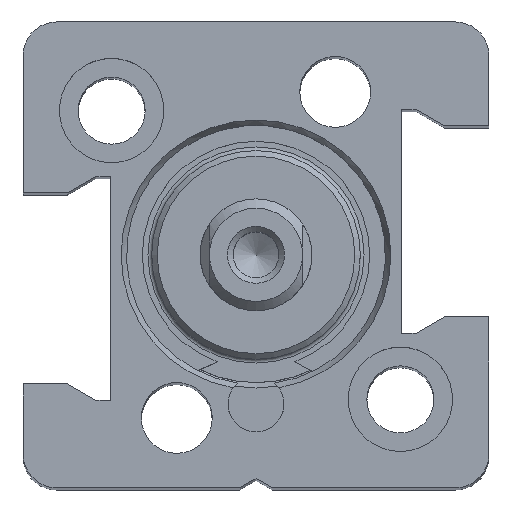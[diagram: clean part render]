
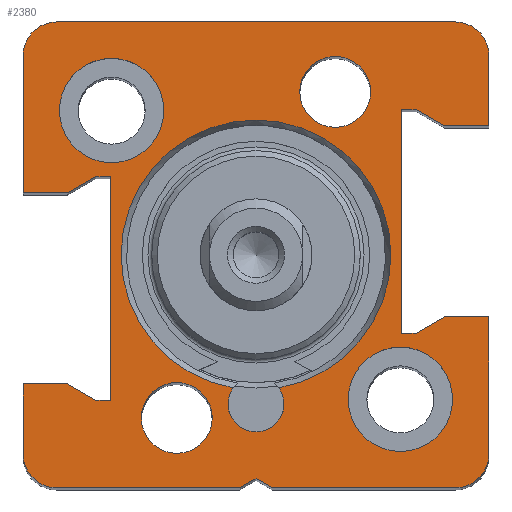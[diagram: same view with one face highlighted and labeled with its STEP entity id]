
A CAD part, top view. The second image highlights one B-rep face of the part: STEP entity #2380.
In plain terms, the highlighted planar face has unit normal (0, 0, 1).
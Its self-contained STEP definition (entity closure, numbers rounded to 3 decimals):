
#100=LINE('',#3318,#193);
#102=LINE('',#3322,#195);
#104=LINE('',#3326,#197);
#106=LINE('',#3330,#199);
#108=LINE('',#3334,#201);
#110=LINE('',#3338,#203);
#112=LINE('',#3342,#205);
#114=LINE('',#3346,#207);
#116=LINE('',#3350,#209);
#119=LINE('',#3358,#212);
#122=LINE('',#3364,#215);
#124=LINE('',#3368,#217);
#127=LINE('',#3376,#220);
#129=LINE('',#3380,#222);
#131=LINE('',#3384,#224);
#133=LINE('',#3388,#226);
#135=LINE('',#3392,#228);
#137=LINE('',#3396,#230);
#139=LINE('',#3400,#232);
#141=LINE('',#3404,#234);
#143=LINE('',#3408,#236);
#150=LINE('',#3496,#243);
#151=LINE('',#3497,#244);
#193=VECTOR('',#2782,1000.);
#195=VECTOR('',#2786,1000.);
#197=VECTOR('',#2790,1000.);
#199=VECTOR('',#2794,1000.);
#201=VECTOR('',#2798,1000.);
#203=VECTOR('',#2802,1000.);
#205=VECTOR('',#2806,1000.);
#207=VECTOR('',#2810,1000.);
#209=VECTOR('',#2814,1000.);
#212=VECTOR('',#2823,1000.);
#215=VECTOR('',#2828,1000.);
#217=VECTOR('',#2832,1000.);
#220=VECTOR('',#2841,1000.);
#222=VECTOR('',#2845,1000.);
#224=VECTOR('',#2849,1000.);
#226=VECTOR('',#2853,1000.);
#228=VECTOR('',#2857,1000.);
#230=VECTOR('',#2861,1000.);
#232=VECTOR('',#2865,1000.);
#234=VECTOR('',#2869,1000.);
#236=VECTOR('',#2873,1000.);
#243=VECTOR('',#2946,1000.);
#244=VECTOR('',#2947,1000.);
#302=PLANE('',#2549);
#537=ORIENTED_EDGE('',*,*,#848,.T.);
#538=ORIENTED_EDGE('',*,*,#849,.T.);
#539=ORIENTED_EDGE('',*,*,#870,.T.);
#540=ORIENTED_EDGE('',*,*,#864,.F.);
#541=ORIENTED_EDGE('',*,*,#871,.T.);
#542=ORIENTED_EDGE('',*,*,#872,.T.);
#543=ORIENTED_EDGE('',*,*,#873,.F.);
#544=ORIENTED_EDGE('',*,*,#796,.F.);
#545=ORIENTED_EDGE('',*,*,#799,.F.);
#546=ORIENTED_EDGE('',*,*,#801,.F.);
#547=ORIENTED_EDGE('',*,*,#803,.F.);
#548=ORIENTED_EDGE('',*,*,#805,.F.);
#549=ORIENTED_EDGE('',*,*,#807,.F.);
#550=ORIENTED_EDGE('',*,*,#809,.F.);
#551=ORIENTED_EDGE('',*,*,#811,.F.);
#552=ORIENTED_EDGE('',*,*,#813,.F.);
#553=ORIENTED_EDGE('',*,*,#815,.F.);
#554=ORIENTED_EDGE('',*,*,#817,.F.);
#555=ORIENTED_EDGE('',*,*,#874,.F.);
#556=ORIENTED_EDGE('',*,*,#819,.F.);
#557=ORIENTED_EDGE('',*,*,#822,.F.);
#558=ORIENTED_EDGE('',*,*,#824,.F.);
#559=ORIENTED_EDGE('',*,*,#826,.F.);
#560=ORIENTED_EDGE('',*,*,#828,.F.);
#561=ORIENTED_EDGE('',*,*,#830,.F.);
#562=ORIENTED_EDGE('',*,*,#832,.F.);
#563=ORIENTED_EDGE('',*,*,#834,.F.);
#564=ORIENTED_EDGE('',*,*,#836,.F.);
#565=ORIENTED_EDGE('',*,*,#838,.F.);
#566=ORIENTED_EDGE('',*,*,#840,.F.);
#567=ORIENTED_EDGE('',*,*,#842,.F.);
#568=ORIENTED_EDGE('',*,*,#844,.F.);
#569=ORIENTED_EDGE('',*,*,#846,.F.);
#796=EDGE_CURVE('',#997,#998,#1117,.T.);
#799=EDGE_CURVE('',#999,#997,#100,.T.);
#801=EDGE_CURVE('',#1000,#999,#102,.T.);
#803=EDGE_CURVE('',#1001,#1000,#104,.T.);
#805=EDGE_CURVE('',#1002,#1001,#106,.T.);
#807=EDGE_CURVE('',#1003,#1002,#108,.T.);
#809=EDGE_CURVE('',#1004,#1003,#110,.T.);
#811=EDGE_CURVE('',#1005,#1004,#112,.T.);
#813=EDGE_CURVE('',#1006,#1005,#114,.T.);
#815=EDGE_CURVE('',#1007,#1006,#116,.T.);
#817=EDGE_CURVE('',#1008,#1007,#1118,.T.);
#819=EDGE_CURVE('',#1009,#1010,#119,.T.);
#822=EDGE_CURVE('',#1011,#1009,#122,.T.);
#824=EDGE_CURVE('',#1012,#1011,#124,.T.);
#826=EDGE_CURVE('',#1013,#1012,#1119,.T.);
#828=EDGE_CURVE('',#1014,#1013,#127,.T.);
#830=EDGE_CURVE('',#1015,#1014,#129,.T.);
#832=EDGE_CURVE('',#1016,#1015,#131,.T.);
#834=EDGE_CURVE('',#1017,#1016,#133,.T.);
#836=EDGE_CURVE('',#1018,#1017,#135,.T.);
#838=EDGE_CURVE('',#1019,#1018,#137,.T.);
#840=EDGE_CURVE('',#1020,#1019,#139,.T.);
#842=EDGE_CURVE('',#1021,#1020,#141,.T.);
#844=EDGE_CURVE('',#1022,#1021,#143,.T.);
#846=EDGE_CURVE('',#1023,#1022,#1120,.T.);
#848=EDGE_CURVE('',#1024,#1024,#1121,.T.);
#849=EDGE_CURVE('',#1025,#1025,#1122,.T.);
#864=EDGE_CURVE('',#1040,#1041,#1133,.T.);
#870=EDGE_CURVE('',#1040,#1041,#1136,.T.);
#871=EDGE_CURVE('',#1045,#1045,#1137,.T.);
#872=EDGE_CURVE('',#1046,#1046,#1138,.T.);
#873=EDGE_CURVE('',#998,#1023,#150,.T.);
#874=EDGE_CURVE('',#1010,#1008,#151,.T.);
#997=VERTEX_POINT('',#3313);
#998=VERTEX_POINT('',#3314);
#999=VERTEX_POINT('',#3319);
#1000=VERTEX_POINT('',#3323);
#1001=VERTEX_POINT('',#3327);
#1002=VERTEX_POINT('',#3331);
#1003=VERTEX_POINT('',#3335);
#1004=VERTEX_POINT('',#3339);
#1005=VERTEX_POINT('',#3343);
#1006=VERTEX_POINT('',#3347);
#1007=VERTEX_POINT('',#3351);
#1008=VERTEX_POINT('',#3355);
#1009=VERTEX_POINT('',#3359);
#1010=VERTEX_POINT('',#3360);
#1011=VERTEX_POINT('',#3365);
#1012=VERTEX_POINT('',#3369);
#1013=VERTEX_POINT('',#3373);
#1014=VERTEX_POINT('',#3377);
#1015=VERTEX_POINT('',#3381);
#1016=VERTEX_POINT('',#3385);
#1017=VERTEX_POINT('',#3389);
#1018=VERTEX_POINT('',#3393);
#1019=VERTEX_POINT('',#3397);
#1020=VERTEX_POINT('',#3401);
#1021=VERTEX_POINT('',#3405);
#1022=VERTEX_POINT('',#3409);
#1023=VERTEX_POINT('',#3413);
#1024=VERTEX_POINT('',#3417);
#1025=VERTEX_POINT('',#3420);
#1040=VERTEX_POINT('',#3475);
#1041=VERTEX_POINT('',#3477);
#1045=VERTEX_POINT('',#3493);
#1046=VERTEX_POINT('',#3495);
#1117=CIRCLE('',#2494,1.8);
#1118=CIRCLE('',#2505,1.8);
#1119=CIRCLE('',#2510,1.8);
#1120=CIRCLE('',#2521,1.8);
#1121=CIRCLE('',#2523,1.9);
#1122=CIRCLE('',#2525,1.9);
#1133=CIRCLE('',#2545,7.239);
#1136=CIRCLE('',#2550,1.5);
#1137=CIRCLE('',#2551,2.8);
#1138=CIRCLE('',#2552,2.8);
#1255=EDGE_LOOP('',(#537));
#1256=EDGE_LOOP('',(#538));
#1257=EDGE_LOOP('',(#539,#540));
#1258=EDGE_LOOP('',(#541));
#1259=EDGE_LOOP('',(#542));
#1260=EDGE_LOOP('',(#543,#544,#545,#546,#547,#548,#549,#550,#551,#552,#553,
#554,#555,#556,#557,#558,#559,#560,#561,#562,#563,#564,#565,#566,#567,#568,
#569));
#1427=FACE_BOUND('',#1255,.T.);
#1428=FACE_BOUND('',#1256,.T.);
#1429=FACE_BOUND('',#1257,.T.);
#1430=FACE_BOUND('',#1258,.T.);
#1431=FACE_BOUND('',#1259,.T.);
#1432=FACE_BOUND('',#1260,.T.);
#2380=ADVANCED_FACE('',(#1427,#1428,#1429,#1430,#1431,#1432),#302,.T.);
#2494=AXIS2_PLACEMENT_3D('',#3312,#2776,#2777);
#2505=AXIS2_PLACEMENT_3D('',#3354,#2818,#2819);
#2510=AXIS2_PLACEMENT_3D('',#3372,#2836,#2837);
#2521=AXIS2_PLACEMENT_3D('',#3412,#2877,#2878);
#2523=AXIS2_PLACEMENT_3D('',#3416,#2882,#2883);
#2525=AXIS2_PLACEMENT_3D('',#3419,#2886,#2887);
#2545=AXIS2_PLACEMENT_3D('',#3476,#2928,#2929);
#2549=AXIS2_PLACEMENT_3D('',#3490,#2938,#2939);
#2550=AXIS2_PLACEMENT_3D('',#3491,#2940,#2941);
#2551=AXIS2_PLACEMENT_3D('',#3492,#2942,#2943);
#2552=AXIS2_PLACEMENT_3D('',#3494,#2944,#2945);
#2776=DIRECTION('',(0.,0.,-1.));
#2777=DIRECTION('',(0.,1.,0.));
#2782=DIRECTION('',(0.,1.,0.));
#2786=DIRECTION('',(-1.,0.,0.));
#2790=DIRECTION('',(-0.866,-0.5,0.));
#2794=DIRECTION('',(-1.,0.,0.));
#2798=DIRECTION('',(0.,1.,0.));
#2802=DIRECTION('',(1.,0.,0.));
#2806=DIRECTION('',(0.866,-0.5,0.));
#2810=DIRECTION('',(1.,0.,0.));
#2814=DIRECTION('',(0.,1.,0.));
#2818=DIRECTION('',(0.,0.,-1.));
#2819=DIRECTION('',(-1.,0.,0.));
#2823=DIRECTION('',(-0.866,-0.5,0.));
#2828=DIRECTION('',(-0.866,0.5,0.));
#2832=DIRECTION('',(-1.,0.,0.));
#2836=DIRECTION('',(0.,0.,-1.));
#2837=DIRECTION('',(0.,-1.,0.));
#2841=DIRECTION('',(0.,-1.,0.));
#2845=DIRECTION('',(1.,0.,0.));
#2849=DIRECTION('',(0.866,0.5,0.));
#2853=DIRECTION('',(1.,0.,0.));
#2857=DIRECTION('',(0.,-1.,0.));
#2861=DIRECTION('',(-1.,0.,0.));
#2865=DIRECTION('',(-0.866,0.5,0.));
#2869=DIRECTION('',(-1.,0.,0.));
#2873=DIRECTION('',(0.,-1.,0.));
#2877=DIRECTION('',(0.,0.,-1.));
#2878=DIRECTION('',(1.,0.,0.));
#2882=DIRECTION('',(0.,0.,-1.));
#2883=DIRECTION('',(-1.,0.,0.));
#2886=DIRECTION('',(0.,0.,-1.));
#2887=DIRECTION('',(-1.,0.,0.));
#2928=DIRECTION('',(0.,0.,1.));
#2929=DIRECTION('',(0.,-1.,0.));
#2938=DIRECTION('',(0.,0.,1.));
#2939=DIRECTION('',(1.,0.,0.));
#2940=DIRECTION('',(0.,0.,-1.));
#2941=DIRECTION('',(-1.,0.,0.));
#2942=DIRECTION('',(0.,0.,-1.));
#2943=DIRECTION('',(1.,0.,0.));
#2944=DIRECTION('',(0.,0.,-1.));
#2945=DIRECTION('',(1.,0.,0.));
#2946=DIRECTION('',(1.,0.,0.));
#2947=DIRECTION('',(-1.,0.,0.));
#3312=CARTESIAN_POINT('',(-10.7,10.7,67.));
#3313=CARTESIAN_POINT('',(-12.5,10.7,67.));
#3314=CARTESIAN_POINT('',(-10.7,12.5,67.));
#3318=CARTESIAN_POINT('',(-12.5,3.325,67.));
#3319=CARTESIAN_POINT('',(-12.5,3.325,67.));
#3322=CARTESIAN_POINT('',(-10.116,3.325,67.));
#3323=CARTESIAN_POINT('',(-10.116,3.325,67.));
#3326=CARTESIAN_POINT('',(-8.6,4.2,67.));
#3327=CARTESIAN_POINT('',(-8.6,4.2,67.));
#3330=CARTESIAN_POINT('',(-7.8,4.2,67.));
#3331=CARTESIAN_POINT('',(-7.8,4.2,67.));
#3334=CARTESIAN_POINT('',(-7.8,-7.8,67.));
#3335=CARTESIAN_POINT('',(-7.8,-7.8,67.));
#3338=CARTESIAN_POINT('',(-8.6,-7.8,67.));
#3339=CARTESIAN_POINT('',(-8.6,-7.8,67.));
#3342=CARTESIAN_POINT('',(-10.116,-6.925,67.));
#3343=CARTESIAN_POINT('',(-10.116,-6.925,67.));
#3346=CARTESIAN_POINT('',(-12.5,-6.925,67.));
#3347=CARTESIAN_POINT('',(-12.5,-6.925,67.));
#3350=CARTESIAN_POINT('',(-12.5,-10.7,67.));
#3351=CARTESIAN_POINT('',(-12.5,-10.7,67.));
#3354=CARTESIAN_POINT('',(-10.7,-10.7,67.));
#3355=CARTESIAN_POINT('',(-10.7,-12.5,67.));
#3358=CARTESIAN_POINT('',(0.,-12.,67.));
#3359=CARTESIAN_POINT('',(0.,-12.,67.));
#3360=CARTESIAN_POINT('',(-0.866,-12.5,67.));
#3364=CARTESIAN_POINT('',(0.866,-12.5,67.));
#3365=CARTESIAN_POINT('',(0.866,-12.5,67.));
#3368=CARTESIAN_POINT('',(10.7,-12.5,67.));
#3369=CARTESIAN_POINT('',(10.7,-12.5,67.));
#3372=CARTESIAN_POINT('',(10.7,-10.7,67.));
#3373=CARTESIAN_POINT('',(12.5,-10.7,67.));
#3376=CARTESIAN_POINT('',(12.5,-3.325,67.));
#3377=CARTESIAN_POINT('',(12.5,-3.325,67.));
#3380=CARTESIAN_POINT('',(10.116,-3.325,67.));
#3381=CARTESIAN_POINT('',(10.116,-3.325,67.));
#3384=CARTESIAN_POINT('',(8.6,-4.2,67.));
#3385=CARTESIAN_POINT('',(8.6,-4.2,67.));
#3388=CARTESIAN_POINT('',(7.8,-4.2,67.));
#3389=CARTESIAN_POINT('',(7.8,-4.2,67.));
#3392=CARTESIAN_POINT('',(7.8,7.8,67.));
#3393=CARTESIAN_POINT('',(7.8,7.8,67.));
#3396=CARTESIAN_POINT('',(8.6,7.8,67.));
#3397=CARTESIAN_POINT('',(8.6,7.8,67.));
#3400=CARTESIAN_POINT('',(10.116,6.925,67.));
#3401=CARTESIAN_POINT('',(10.116,6.925,67.));
#3404=CARTESIAN_POINT('',(12.5,6.925,67.));
#3405=CARTESIAN_POINT('',(12.5,6.925,67.));
#3408=CARTESIAN_POINT('',(12.5,10.7,67.));
#3409=CARTESIAN_POINT('',(12.5,10.7,67.));
#3412=CARTESIAN_POINT('',(10.7,10.7,67.));
#3413=CARTESIAN_POINT('',(10.7,12.5,67.));
#3416=CARTESIAN_POINT('',(4.25,8.75,67.));
#3417=CARTESIAN_POINT('',(2.35,8.75,67.));
#3419=CARTESIAN_POINT('',(-4.25,-8.75,67.));
#3420=CARTESIAN_POINT('',(-6.15,-8.75,67.));
#3475=CARTESIAN_POINT('',(1.225,-7.134,67.));
#3476=CARTESIAN_POINT('',(0.,0.,67.));
#3477=CARTESIAN_POINT('',(-1.225,-7.134,67.));
#3490=CARTESIAN_POINT('',(0.,-0.024,67.));
#3491=CARTESIAN_POINT('',(0.,-8.,67.));
#3492=CARTESIAN_POINT('',(-7.75,7.75,67.));
#3493=CARTESIAN_POINT('',(-4.95,7.75,67.));
#3494=CARTESIAN_POINT('',(7.75,-7.75,67.));
#3495=CARTESIAN_POINT('',(10.55,-7.75,67.));
#3496=CARTESIAN_POINT('',(-10.7,12.5,67.));
#3497=CARTESIAN_POINT('',(-0.866,-12.5,67.));
